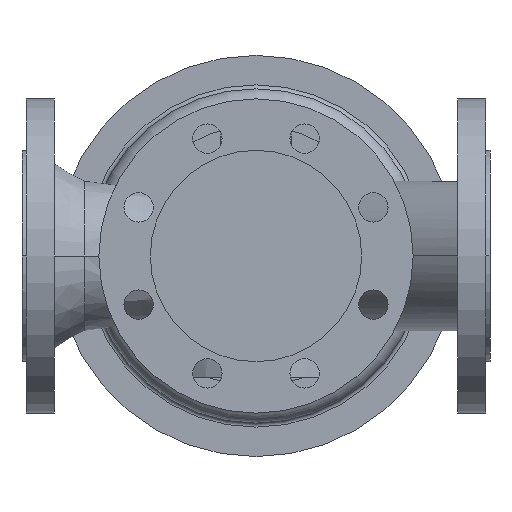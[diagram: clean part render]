
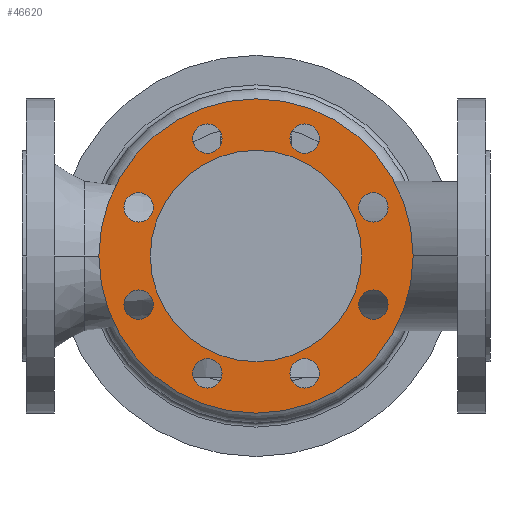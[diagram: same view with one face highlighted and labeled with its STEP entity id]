
A CAD part, front view. The second image highlights one B-rep face of the part: STEP entity #46620.
In plain terms, the highlighted planar face has unit normal (0, -1, 0).
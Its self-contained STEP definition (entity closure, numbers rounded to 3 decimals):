
#3680=CARTESIAN_POINT('',(254.,-147.,0.));
#3690=VERTEX_POINT('',#3680);
#3870=CARTESIAN_POINT('',(96.,-147.,0.));
#3880=VERTEX_POINT('',#3870);
#3910=CARTESIAN_POINT('',(175.,-147.,0.));
#3920=DIRECTION('',(0.,-1.,0.));
#3930=DIRECTION('',(1.,0.,0.));
#3940=AXIS2_PLACEMENT_3D('',#3910,#3920,#3930);
#3950=CIRCLE('',#3940,79.);
#3960=EDGE_CURVE('',#3690,#3880,#3950,.T.);
#11530=CARTESIAN_POINT('',(292.5,-147.,0.));
#11540=VERTEX_POINT('',#11530);
#11700=CARTESIAN_POINT('',(57.5,-147.,0.));
#11710=VERTEX_POINT('',#11700);
#11740=CARTESIAN_POINT('',(175.,-147.,0.));
#11750=DIRECTION('',(0.,1.,0.));
#11760=DIRECTION('',(1.,0.,0.));
#11770=AXIS2_PLACEMENT_3D('',#11740,#11750,#11760);
#11780=CIRCLE('',#11770,117.5);
#11790=EDGE_CURVE('',#11540,#11710,#11780,.T.);
#11950=CARTESIAN_POINT('',(273.769,-147.,-36.355));
#11960=VERTEX_POINT('',#11950);
#12120=CARTESIAN_POINT('',(251.769,-147.,-36.355));
#12130=VERTEX_POINT('',#12120);
#12160=CARTESIAN_POINT('',(262.769,-147.,-36.355));
#12170=DIRECTION('',(0.,1.,0.));
#12180=DIRECTION('',(1.,0.,0.));
#12190=AXIS2_PLACEMENT_3D('',#12160,#12170,#12180);
#12200=CIRCLE('',#12190,11.);
#12210=EDGE_CURVE('',#12130,#11960,#12200,.T.);
#12370=CARTESIAN_POINT('',(273.769,-147.,36.355));
#12380=VERTEX_POINT('',#12370);
#12410=CARTESIAN_POINT('',(262.769,-147.,36.355));
#12420=DIRECTION('',(0.,1.,0.));
#12430=DIRECTION('',(1.,0.,0.));
#12440=AXIS2_PLACEMENT_3D('',#12410,#12420,#12430);
#12450=CIRCLE('',#12440,11.);
#12460=CARTESIAN_POINT('',(251.769,-147.,36.355));
#12470=VERTEX_POINT('',#12460);
#12480=EDGE_CURVE('',#12380,#12470,#12450,.T.);
#12790=CARTESIAN_POINT('',(222.355,-147.,-87.769));
#12800=VERTEX_POINT('',#12790);
#12960=CARTESIAN_POINT('',(200.355,-147.,-87.769));
#12970=VERTEX_POINT('',#12960);
#13000=CARTESIAN_POINT('',(211.355,-147.,-87.769));
#13010=DIRECTION('',(0.,1.,0.));
#13020=DIRECTION('',(1.,0.,0.));
#13030=AXIS2_PLACEMENT_3D('',#13000,#13010,#13020);
#13040=CIRCLE('',#13030,11.);
#13050=EDGE_CURVE('',#12970,#12800,#13040,.T.);
#13210=CARTESIAN_POINT('',(222.355,-147.,87.769));
#13220=VERTEX_POINT('',#13210);
#13250=CARTESIAN_POINT('',(211.355,-147.,87.769));
#13260=DIRECTION('',(0.,1.,0.));
#13270=DIRECTION('',(1.,0.,0.));
#13280=AXIS2_PLACEMENT_3D('',#13250,#13260,#13270);
#13290=CIRCLE('',#13280,11.);
#13300=CARTESIAN_POINT('',(200.355,-147.,87.769));
#13310=VERTEX_POINT('',#13300);
#13320=EDGE_CURVE('',#13220,#13310,#13290,.T.);
#13630=CARTESIAN_POINT('',(149.645,-147.,-87.769));
#13640=VERTEX_POINT('',#13630);
#13670=CARTESIAN_POINT('',(138.645,-147.,-87.769));
#13680=DIRECTION('',(0.,1.,0.));
#13690=DIRECTION('',(1.,0.,0.));
#13700=AXIS2_PLACEMENT_3D('',#13670,#13680,#13690);
#13710=CIRCLE('',#13700,11.);
#13720=CARTESIAN_POINT('',(127.645,-147.,-87.769));
#13730=VERTEX_POINT('',#13720);
#13740=EDGE_CURVE('',#13640,#13730,#13710,.T.);
#14050=CARTESIAN_POINT('',(149.645,-147.,87.769));
#14060=VERTEX_POINT('',#14050);
#14220=CARTESIAN_POINT('',(127.645,-147.,87.769));
#14230=VERTEX_POINT('',#14220);
#14260=CARTESIAN_POINT('',(138.645,-147.,87.769));
#14270=DIRECTION('',(0.,1.,0.));
#14280=DIRECTION('',(1.,0.,0.));
#14290=AXIS2_PLACEMENT_3D('',#14260,#14270,#14280);
#14300=CIRCLE('',#14290,11.);
#14310=EDGE_CURVE('',#14230,#14060,#14300,.T.);
#14470=CARTESIAN_POINT('',(98.231,-147.,-36.355));
#14480=VERTEX_POINT('',#14470);
#14640=CARTESIAN_POINT('',(76.231,-147.,-36.355));
#14650=VERTEX_POINT('',#14640);
#14680=CARTESIAN_POINT('',(87.231,-147.,-36.355));
#14690=DIRECTION('',(0.,1.,0.));
#14700=DIRECTION('',(1.,0.,0.));
#14710=AXIS2_PLACEMENT_3D('',#14680,#14690,#14700);
#14720=CIRCLE('',#14710,11.);
#14730=EDGE_CURVE('',#14650,#14480,#14720,.T.);
#14890=CARTESIAN_POINT('',(76.231,-147.,36.355));
#14900=VERTEX_POINT('',#14890);
#14930=CARTESIAN_POINT('',(87.231,-147.,36.355));
#14940=DIRECTION('',(0.,1.,0.));
#14950=DIRECTION('',(1.,0.,0.));
#14960=AXIS2_PLACEMENT_3D('',#14930,#14940,#14950);
#14970=CIRCLE('',#14960,11.);
#14980=CARTESIAN_POINT('',(98.231,-147.,36.355));
#14990=VERTEX_POINT('',#14980);
#15000=EDGE_CURVE('',#14900,#14990,#14970,.T.);
#46070=CARTESIAN_POINT('',(175.,-147.,0.));
#46080=DIRECTION('',(0.,1.,0.));
#46090=DIRECTION('',(0.,0.,1.));
#46100=AXIS2_PLACEMENT_3D('',#46070,#46080,#46090);
#46110=PLANE('',#46100);
#46120=ORIENTED_EDGE('',*,*,#15000,.T.);
#46130=EDGE_CURVE('',#14990,#14900,#14970,.T.);
#46140=ORIENTED_EDGE('',*,*,#46130,.T.);
#46150=EDGE_LOOP('',(#46140,#46120));
#46160=FACE_BOUND('',#46150,.T.);
#46170=EDGE_CURVE('',#14480,#14650,#14720,.T.);
#46180=ORIENTED_EDGE('',*,*,#46170,.T.);
#46190=ORIENTED_EDGE('',*,*,#14730,.T.);
#46200=EDGE_LOOP('',(#46190,#46180));
#46210=FACE_BOUND('',#46200,.T.);
#46220=EDGE_CURVE('',#14060,#14230,#14300,.T.);
#46230=ORIENTED_EDGE('',*,*,#46220,.T.);
#46240=ORIENTED_EDGE('',*,*,#14310,.T.);
#46250=EDGE_LOOP('',(#46240,#46230));
#46260=FACE_BOUND('',#46250,.T.);
#46270=ORIENTED_EDGE('',*,*,#13740,.T.);
#46280=EDGE_CURVE('',#13730,#13640,#13710,.T.);
#46290=ORIENTED_EDGE('',*,*,#46280,.T.);
#46300=EDGE_LOOP('',(#46290,#46270));
#46310=FACE_BOUND('',#46300,.T.);
#46320=ORIENTED_EDGE('',*,*,#13320,.T.);
#46330=EDGE_CURVE('',#13310,#13220,#13290,.T.);
#46340=ORIENTED_EDGE('',*,*,#46330,.T.);
#46350=EDGE_LOOP('',(#46340,#46320));
#46360=FACE_BOUND('',#46350,.T.);
#46370=EDGE_CURVE('',#12800,#12970,#13040,.T.);
#46380=ORIENTED_EDGE('',*,*,#46370,.T.);
#46390=ORIENTED_EDGE('',*,*,#13050,.T.);
#46400=EDGE_LOOP('',(#46390,#46380));
#46410=FACE_BOUND('',#46400,.T.);
#46420=ORIENTED_EDGE('',*,*,#12480,.T.);
#46430=EDGE_CURVE('',#12470,#12380,#12450,.T.);
#46440=ORIENTED_EDGE('',*,*,#46430,.T.);
#46450=EDGE_LOOP('',(#46440,#46420));
#46460=FACE_BOUND('',#46450,.T.);
#46470=EDGE_CURVE('',#11960,#12130,#12200,.T.);
#46480=ORIENTED_EDGE('',*,*,#46470,.T.);
#46490=ORIENTED_EDGE('',*,*,#12210,.T.);
#46500=EDGE_LOOP('',(#46490,#46480));
#46510=FACE_BOUND('',#46500,.T.);
#46520=EDGE_CURVE('',#11710,#11540,#11780,.T.);
#46530=ORIENTED_EDGE('',*,*,#46520,.F.);
#46540=ORIENTED_EDGE('',*,*,#11790,.F.);
#46550=EDGE_LOOP('',(#46540,#46530));
#46560=FACE_OUTER_BOUND('',#46550,.T.);
#46570=EDGE_CURVE('',#3880,#3690,#3950,.T.);
#46580=ORIENTED_EDGE('',*,*,#46570,.F.);
#46590=ORIENTED_EDGE('',*,*,#3960,.F.);
#46600=EDGE_LOOP('',(#46590,#46580));
#46610=FACE_BOUND('',#46600,.T.);
#46620=ADVANCED_FACE('',(#46160,#46210,#46260,#46310,#46360,#46410,
#46460,#46510,#46560,#46610),#46110,.F.);
